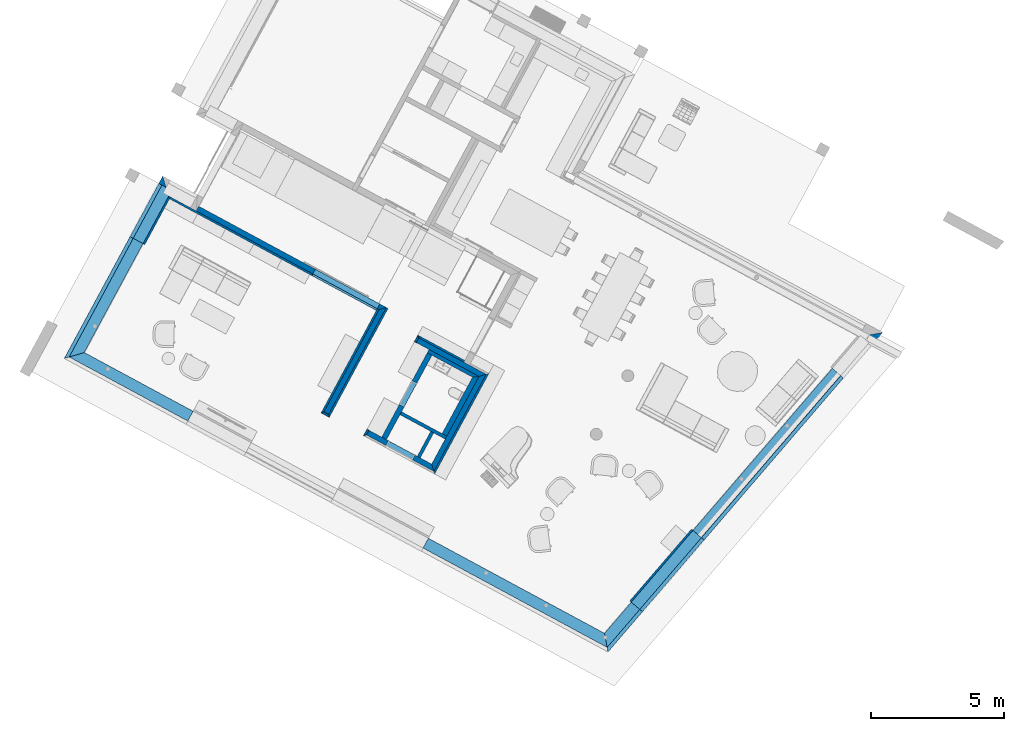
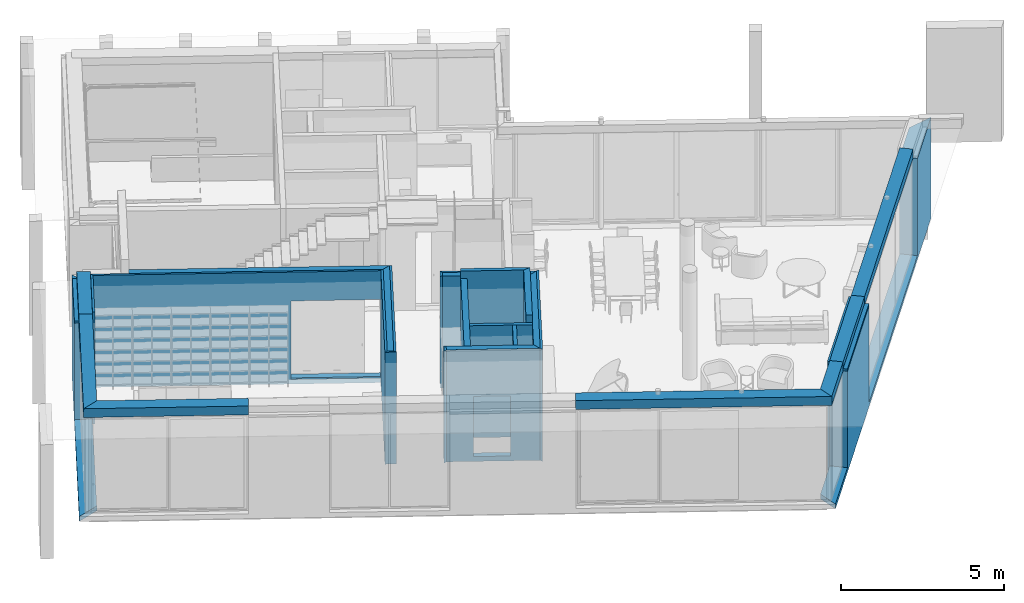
# One storey, part 2 of 36: 29 walls, 7 openings.
"""IFC2X3 building model written with IfcOpenShell, lengths in metres."""

from ifc_helpers import new_model, entity, si_unit, converted_unit, derived_unit, money_unit, direction, frame, origin_with_axes, origin_2d_with_axis, place, context, subcontext, project, spatial, polyline, rectangle, outline, composite_profile, extrude, faceted_brep, material, material_list, layer, layer_set, layer_usage, type_object, element, save


model = new_model("IFC2X3")

# Units and contexts
model_context = context("Model", 3, precision=1e-05, world=origin_with_axes(), true_north=direction((0.0, 1.0)))
body_context = subcontext(model_context, "Body", "Model", "MODEL_VIEW")
ifc_project = project(units=[si_unit("LENGTHUNIT", "METRE"), si_unit("AREAUNIT", "SQUARE_METRE"), si_unit("VOLUMEUNIT", "CUBIC_METRE"), converted_unit("PLANEANGLEUNIT", "DEGREE", entity("IfcPlaneAngleMeasure", 0.0174532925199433), si_unit("PLANEANGLEUNIT", "RADIAN"), dimensions=[0, 0, 0, 0, 0, 0, 0]), money_unit("EUR"), converted_unit("TIMEUNIT", "Year", entity("IfcTimeMeasure", 31556926.0), si_unit("TIMEUNIT", "SECOND"), dimensions=[0, 0, 1, 0, 0, 0, 0]), si_unit("MASSUNIT", "GRAM", prefix="KILO"), si_unit("THERMODYNAMICTEMPERATUREUNIT", "DEGREE_CELSIUS"), si_unit("LUMINOUSINTENSITYUNIT", "LUMEN"), si_unit("ENERGYUNIT", "JOULE", prefix="MEGA"), derived_unit("THERMALCONDUCTANCEUNIT", [(si_unit("POWERUNIT", "WATT"), 1), (si_unit("LENGTHUNIT", "METRE"), -1), (si_unit("THERMODYNAMICTEMPERATUREUNIT", "KELVIN"), -1)]), derived_unit("SPECIFICHEATCAPACITYUNIT", [(si_unit("ENERGYUNIT", "JOULE"), 1), (si_unit("MASSUNIT", "GRAM", prefix="KILO"), -1), (si_unit("THERMODYNAMICTEMPERATUREUNIT", "KELVIN"), -1)]), derived_unit("MASSDENSITYUNIT", [(si_unit("MASSUNIT", "GRAM", prefix="KILO"), 1), (si_unit("VOLUMEUNIT", "CUBIC_METRE"), -1)])], contexts=[model_context])

# Site, building, storey
site_placement = place(None, frame((-3.949935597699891, 1.740105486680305, 0.0), z_axis=(0.0, 0.0, 1.0), x_axis=(0.8799804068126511, -0.475009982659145, 0.0)))
site = spatial("IfcSite", under=ifc_project, at=site_placement, Name="Gelände", CompositionType="ELEMENT")
building_placement = place(site_placement, origin_with_axes())
building = spatial("IfcBuilding", under=site, at=building_placement, Name="Gebäude", CompositionType="ELEMENT")
storey_placement = place(building_placement, origin_with_axes())
storey = spatial("IfcBuildingStorey", under=building, at=storey_placement, Name="Erdgeschoss", CompositionType="ELEMENT", Elevation=0.0)

# Wall, opening
ifc_material_1 = material(Name="_SIWH - MW Vormauerziegel")
ifc_layer_1 = layer(ifc_material_1, 0.115, ventilated="UNKNOWN")
ifc_material_2 = material(Name="_SIWH - Luftschicht vertikal")
ifc_layer_2 = layer(ifc_material_2, 0.02, ventilated="UNKNOWN")
ifc_material_3 = material(Name="_SIWH - Dämmung, weich Mineralwolle")
ifc_layer_3 = layer(ifc_material_3, 0.18, ventilated="UNKNOWN")
ifc_material_4 = material(Name="_SIWH - Beton, Stahlbeton")
ifc_layer_4 = layer(ifc_material_4, 0.24, ventilated="UNKNOWN")
ifc_layer_set_1 = layer_set([ifc_layer_1, ifc_layer_2, ifc_layer_3, ifc_layer_4], Name="_SIWH - WA | Stb. 24+WD 18+LS 2+Verblender 11,5 | 55,5cm")
ifc_layer_usage_1 = layer_usage(ifc_layer_set_1, "AXIS2", "POSITIVE", -0.315)
wall_type_1 = type_object("IfcWallType", Name="_SIWH - WA | Stb. 24+WD 18+LS 2+Verblender 11,5 | 55,5cm 555", PredefinedType="NOTDEFINED")
wall_1_placement = place(storey_placement, frame((4.18253025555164, 7.393034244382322, -0.1800000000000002), z_axis=(0.0, 0.0, 1.0), x_axis=(-5.644435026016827e-07, -0.9999999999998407, 0.0)))
wall_1 = element("IfcWallStandardCase", 1, at=wall_1_placement, inside=storey, type_object=wall_type_1, material=ifc_layer_usage_1, Name="A-Wand026", ObjectType="NOTDEFINED", context=body_context, shape_type="SweptSolid", body=[
    extrude(outline(polyline([(-0.3149998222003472, -0.3149999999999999), (7.483037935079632, -0.3149999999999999), (6.928037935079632, 0.2400000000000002), (0.2399998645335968, 0.2400000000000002), (-0.3149998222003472, -0.3149999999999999)])), origin_with_axes(), (0.0, 0.0, 1.0), 3.799999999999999),
])
opening_1_placement = place(wall_1_placement, frame((4.623035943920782, 0.0, 0.1800000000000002), z_axis=(0.0, 0.0, 1.0), x_axis=(1.0, 0.0, 0.0)))
element("IfcOpeningElement", 2, at=opening_1_placement, cuts=wall_1, Name="Fenster-014", context=body_context, shape_type="Brep", body=[
    faceted_brep([(2.420001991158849, 0.1249999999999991, 3.619999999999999), (-2.350000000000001, 0.1249999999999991, 3.619999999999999), (-2.350000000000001, -0.3160040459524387, 3.619999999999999), (2.86, -0.31600404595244, 3.619999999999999), (2.86, -0.3149980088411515, 3.619999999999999), (2.30399794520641, 0.2410040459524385, 3.619999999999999), (-2.350000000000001, 0.2410040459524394, 3.619999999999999), (-2.350000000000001, 0.1249999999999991, 0.0), (-2.350000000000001, -0.3160040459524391, 0.0), (2.86, -0.31600404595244, 0.0), (2.86, -0.3149980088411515, 0.0), (2.420001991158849, 0.1249999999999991, 0.0), (2.30399794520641, 0.2410040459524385, 0.0), (-2.350000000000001, 0.2410040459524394, 0.0)], [[[0, 1, 2, 3, 4]], [[1, 0, 5, 6]], [[1, 7, 8, 2]], [[2, 8, 9, 3]], [[4, 3, 9, 10]], [[4, 10, 11, 12, 5, 0]], [[12, 13, 6, 5]], [[7, 1, 6, 13]], [[7, 11, 10, 9, 8]], [[11, 7, 13, 12]]]),
])

# Wall, openings
ifc_layer_usage_2 = layer_usage(ifc_layer_set_1, "AXIS2", "POSITIVE", -0.315)
wall_2_placement = place(storey_placement, frame((26.86187507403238, 0.224983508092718, -0.1800000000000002), z_axis=(0.0, 0.0, 1.0), x_axis=(0.213378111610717, 0.9769696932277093, 0.0)))
wall_2 = element("IfcWallStandardCase", 3, at=wall_2_placement, inside=storey, type_object=wall_type_1, material=ifc_layer_usage_2, Name="A-Wand028", ObjectType="NOTDEFINED", context=body_context, shape_type="SweptSolid", body=[
    extrude(outline(polyline([(-0.2536271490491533, -0.3150000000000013), (15.59953886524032, -0.3150000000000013), (14.91023923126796, 0.240000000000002), (0.1932397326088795, 0.240000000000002), (-0.2536271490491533, -0.3150000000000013)])), origin_with_axes(), (0.0, 0.0, 1.0), 3.799999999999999),
])
opening_2_placement = place(wall_2_placement, frame((0.9454091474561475, 0.0, 0.1800000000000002), z_axis=(0.0, 0.0, 1.0), x_axis=(1.0, 0.0, 0.0)))
element("IfcOpeningElement", 4, at=opening_2_placement, cuts=wall_2, Name="Fenster-003", context=body_context, shape_type="Brep", body=[
    faceted_brep([(0.7933643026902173, 0.125, 0.0), (0.7933643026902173, 0.125, 3.619999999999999), (0.7933643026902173, -3.486385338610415, 3.619999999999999), (0.7933643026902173, -3.486385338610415, 0.0), (0.7933643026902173, 2.159522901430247, 0.0), (0.7933643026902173, 2.159522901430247, 3.619999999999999), (-0.8447634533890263, 0.125, 3.619999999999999), (-1.19903662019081, -0.3150004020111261, 3.619999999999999), (-1.19903662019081, -3.486385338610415, 3.619999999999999), (-1.19903662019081, -3.486385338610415, 0.0), (-0.8447634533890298, 0.1249999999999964, 0.0), (-1.19903662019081, -0.3150004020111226, 0.0)], [[[0, 1, 2, 3]], [[1, 0, 4, 5]], [[1, 6, 7, 8, 2]], [[8, 9, 3, 2]], [[10, 0, 3, 9, 11]], [[0, 10, 4]], [[4, 10, 11, 7, 6, 5]], [[6, 1, 5]], [[11, 9, 8, 7]]]),
])
opening_3_placement = place(wall_2_placement, frame((9.321424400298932, 0.0, 0.15), z_axis=(0.0, 0.0, 1.0), x_axis=(1.0, 0.0, 0.0)))
element("IfcOpeningElement", 5, at=opening_3_placement, cuts=wall_2, Name="Fenster-003", context=body_context, shape_type="SweptSolid", body=[
    extrude(rectangle(XDim=8.041088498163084, YDim=3.649999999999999, at=origin_2d_with_axis()), frame((0.0, 0.1250000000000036, 1.825), z_axis=(0.0, -1.0, 0.0), x_axis=(-1.0, 0.0, 0.0)), (0.0, 0.0, 1.0), 0.9949999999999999),
    extrude(rectangle(XDim=8.041088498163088, YDim=3.649999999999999, at=origin_2d_with_axis()), frame((0.0, 0.1250000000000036, 1.825), z_axis=(0.0, 1.0, 0.0), x_axis=(-1.0, 0.0, 0.0)), (0.0, 0.0, 1.0), 0.6699999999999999),
])

# Walls
ifc_layer_5 = layer(ifc_material_3, 0.18, ventilated="UNKNOWN")
ifc_layer_6 = layer(ifc_material_4, 0.24, ventilated="UNKNOWN")
ifc_layer_set_2 = layer_set([ifc_layer_5, ifc_layer_6], Name="_SIWH - WA | Stb. 24+WD 18 | 42cm")
ifc_layer_usage_3 = layer_usage(ifc_layer_set_2, "AXIS2", "POSITIVE", -0.18)
wall_type_2 = type_object("IfcWallType", Name="_SIWH - WA | Stb. 24+WD 18 | 42cm 420", PredefinedType="NOTDEFINED")
wall_3_placement = place(storey_placement, frame((19.13486084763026, 0.2249891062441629, 3.619999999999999), z_axis=(0.0, 0.0, 1.0), x_axis=(0.9999999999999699, -2.452875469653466e-07, 0.0)))
element("IfcWallStandardCase", 6, at=wall_3_placement, inside=storey, type_object=wall_type_2, material=ifc_layer_usage_3, Name="A-Wand011", ObjectType="NOTDEFINED", context=body_context, shape_type="SweptSolid", body=[
    extrude(outline(polyline([(0.0, -0.18), (7.871944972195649, -0.18), (7.533775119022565, 0.2400000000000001), (0.0, 0.2400000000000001), (0.0, -0.18)])), origin_with_axes(), (0.0, 0.0, 1.0), 0.330000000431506),
])
ifc_layer_usage_4 = layer_usage(ifc_layer_set_2, "AXIS2", "POSITIVE", -0.18)
wall_4_placement = place(storey_placement, frame((4.182529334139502, 0.2249853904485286, 3.619999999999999), z_axis=(0.0, 0.0, 1.0), x_axis=(0.9999999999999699, -2.452875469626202e-07, 0.0)))
element("IfcWallStandardCase", 7, at=wall_4_placement, inside=storey, type_object=wall_type_2, material=ifc_layer_usage_4, Name="A-Wand007", ObjectType="NOTDEFINED", context=body_context, shape_type="SweptSolid", body=[
    extrude(outline(polyline([(-0.1799999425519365, -0.18), (4.89495199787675, -0.18), (4.89495199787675, 0.24), (0.2399999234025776, 0.24), (-0.1799999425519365, -0.18)])), origin_with_axes(), (0.0, 0.0, 1.0), 0.330000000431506),
])
ifc_layer_usage_5 = layer_usage(ifc_layer_set_2, "AXIS2", "POSITIVE", -0.18)
wall_5_placement = place(storey_placement, frame((27.99296098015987, 5.403786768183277, 3.619999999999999), z_axis=(0.0, 0.0, 1.0), x_axis=(0.2133789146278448, 0.9769695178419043, 0.0)))
element("IfcWallStandardCase", 8, at=wall_5_placement, inside=storey, type_object=wall_type_2, material=ifc_layer_usage_5, Name="A-Wand014", ObjectType="NOTDEFINED", context=body_context, shape_type="SweptSolid", body=[
    extrude(outline(polyline([(1.861902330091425e-07, -0.1800000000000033), (8.041085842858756, -0.1799999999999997), (8.04108584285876, 0.2399999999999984), (-2.482536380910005e-07, 0.2399999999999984), (1.861902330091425e-07, -0.1800000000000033)])), origin_with_axes(), (0.0, 0.0, 1.0), 0.330000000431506),
])
ifc_layer_usage_6 = layer_usage(ifc_layer_set_2, "AXIS2", "POSITIVE", -0.18)
wall_6_placement = place(storey_placement, frame((4.182528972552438, 5.120000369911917, 3.619999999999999), z_axis=(0.0, 0.0, 1.0), x_axis=(7.38684281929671e-08, -0.9999999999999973, 0.0)))
element("IfcWallStandardCase", 9, at=wall_6_placement, inside=storey, type_object=wall_type_2, material=ifc_layer_usage_6, Name="A-Wand015", ObjectType="NOTDEFINED", context=body_context, shape_type="SweptSolid", body=[
    extrude(outline(polyline([(-6.648158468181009e-09, -0.1800000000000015), (5.075014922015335, -0.1800000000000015), (4.655015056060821, 0.2399999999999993), (8.864212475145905e-09, 0.2399999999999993), (-6.648158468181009e-09, -0.1800000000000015)])), origin_with_axes(), (0.0, 0.0, 1.0), 0.330000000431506),
])
ifc_layer_usage_7 = layer_usage(ifc_layer_set_2, "AXIS2", "POSITIVE", -0.18)
wall_7_placement = place(storey_placement, frame((26.86187588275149, 0.224987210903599, 3.619999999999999), z_axis=(0.0, 0.0, 1.0), x_axis=(0.2133768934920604, 0.9769699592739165, 0.0)))
element("IfcWallStandardCase", 10, at=wall_7_placement, inside=storey, type_object=wall_type_2, material=ifc_layer_usage_7, Name="A-Wand012", ObjectType="NOTDEFINED", context=body_context, shape_type="SweptSolid", body=[
    extrude(outline(polyline([(-0.1449299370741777, -0.1800000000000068), (1.738769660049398, -0.1800000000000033), (1.738769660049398, 0.2399999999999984), (0.193239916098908, 0.2399999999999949), (-0.1449299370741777, -0.1800000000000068)])), origin_with_axes(), (0.0, 0.0, 1.0), 0.330000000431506),
])
ifc_material_5 = material(Name="_SIWH - Gipskarton")
ifc_layer_7 = layer(ifc_material_5, 0.0125, ventilated="UNKNOWN")
ifc_layer_8 = layer(ifc_material_5, 0.0125, ventilated="UNKNOWN")
ifc_material_6 = material(Name="_SIWH - Installationswand, raumhoch")
ifc_layer_9 = layer(ifc_material_6, 0.115, ventilated="UNKNOWN")
ifc_layer_set_3 = layer_set([ifc_layer_7, ifc_layer_8, ifc_layer_9], Name="_SIWH - WI | Vorsatz-GK 2-lagig | 14cm")
ifc_layer_usage_8 = layer_usage(ifc_layer_set_3, "AXIS2", "POSITIVE", 0.0)
wall_type_3 = type_object("IfcWallType", Name="_SIWH - WI | Vorsatz-GK 2-lagig | 14cm 140", PredefinedType="PLUMBINGWALL")
wall_8_placement = place(storey_placement, frame((15.78549142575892, 6.58787196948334, -0.3), z_axis=(0.0, 0.0, 1.0), x_axis=(0.9999999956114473, 9.368620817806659e-05, 0.0)))
element("IfcWallStandardCase", 11, at=wall_8_placement, inside=storey, type_object=wall_type_3, material=ifc_layer_usage_8, Name="L-Wand024", ObjectType="PLUMBINGWALL", context=body_context, shape_type="SweptSolid", body=[
    extrude(outline(polyline([(0.0, 0.0), (1.936009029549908, 0.0), (2.136022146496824, 0.1400000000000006), (0.0, 0.1399999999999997), (0.0, 0.0)])), origin_with_axes(), (0.0, 0.0, 1.0), 4.6),
])
ifc_layer_10 = layer(ifc_material_5, 0.0125, ventilated="UNKNOWN")
ifc_layer_11 = layer(ifc_material_5, 0.0125, ventilated="UNKNOWN")
ifc_layer_12 = layer(ifc_material_3, 0.075, ventilated="UNKNOWN")
ifc_layer_13 = layer(ifc_material_5, 0.0125, ventilated="UNKNOWN")
ifc_layer_14 = layer(ifc_material_5, 0.0125, ventilated="UNKNOWN")
ifc_layer_set_4 = layer_set([ifc_layer_10, ifc_layer_11, ifc_layer_12, ifc_layer_13, ifc_layer_14], Name="_SIWH - WI | GK 2-lagig | 12,5cm")
ifc_layer_usage_9 = layer_usage(ifc_layer_set_4, "AXIS2", "NEGATIVE", 0.0)
wall_type_4 = type_object("IfcWallType", Name="_SIWH - WI | GK 2-lagig | 12,5cm 125", PredefinedType="NOTDEFINED")
wall_9_placement = place(storey_placement, frame((17.92150044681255, 4.048753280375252, -0.18), z_axis=(0.0, 0.0, 1.0), x_axis=(-1.0, 0.0, 0.0)))
element("IfcWallStandardCase", 12, at=wall_9_placement, inside=storey, type_object=wall_type_4, material=ifc_layer_usage_9, Name="I-Wand037", ObjectType="NOTDEFINED", context=body_context, shape_type="SweptSolid", body=[
    extrude(outline(polyline([(0.0, -0.125), (1.936022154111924, -0.125), (1.936022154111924, 0.0), (0.0, 0.0), (0.0, -0.125)])), origin_with_axes(), (0.0, 0.0, 1.0), 4.200000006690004),
])
ifc_layer_usage_10 = layer_usage(ifc_layer_set_4, "AXIS2", "NEGATIVE", 0.0)
wall_10_placement = place(storey_placement, frame((17.43039245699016, 4.048753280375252, -0.18), z_axis=(0.0, 0.0, 1.0), x_axis=(0.0, -1.0, 0.0)))
element("IfcWallStandardCase", 13, at=wall_10_placement, inside=storey, type_object=wall_type_4, material=ifc_layer_usage_10, Name="I-Wand038", ObjectType="NOTDEFINED", context=body_context, shape_type="SweptSolid", body=[
    extrude(outline(polyline([(0.0, -0.125), (1.070270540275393, -0.125), (1.070270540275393, 0.0), (0.0, 0.0), (0.0, -0.125)])), origin_with_axes(), (0.0, 0.0, 1.0), 4.200000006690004),
])

# Wall, opening
ifc_layer_15 = layer(ifc_material_5, 0.0125, ventilated="UNKNOWN")
ifc_layer_16 = layer(ifc_material_5, 0.0125, ventilated="UNKNOWN")
ifc_layer_17 = layer(ifc_material_6, 0.05, ventilated="UNKNOWN")
ifc_layer_set_5 = layer_set([ifc_layer_15, ifc_layer_16, ifc_layer_17], Name="_SIWH - WI | Vorsatz-GK 2-lagig | 7,5cm")
ifc_layer_usage_11 = layer_usage(ifc_layer_set_5, "AXIS2", "NEGATIVE", 0.07500000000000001)
wall_type_5 = type_object("IfcWallType", Name="_SIWH - WI | Vorsatz-GK 2-lagig | 7,5cm  75", PredefinedType="PLUMBINGWALL")
wall_11_placement = place(storey_placement, frame((13.41918401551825, 7.153034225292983, -0.1800000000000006), z_axis=(0.0, 0.0, 1.0), x_axis=(-1.0, 0.0, 0.0)))
wall_11 = element("IfcWallStandardCase", 14, at=wall_11_placement, inside=storey, type_object=wall_type_5, material=ifc_layer_usage_11, Name="L-Wand002", ObjectType="PLUMBINGWALL", context=body_context, shape_type="SweptSolid", body=[
    extrude(outline(polyline([(0.0, 0.0), (8.9966550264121, 0.0), (8.921655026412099, 0.07500000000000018), (0.0, 0.07500000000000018), (0.0, 0.0)])), origin_with_axes(), (0.0, 0.0, 1.0), 4.200000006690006),
])
opening_4_placement = place(wall_11_placement, frame((1.455000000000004, 0.0, 0.1800000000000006), z_axis=(0.0, 0.0, 1.0), x_axis=(1.0, 0.0, 0.0)))
element("IfcOpeningElement", 15, at=opening_4_placement, cuts=wall_11, Name="Tür-026", context=body_context, shape_type="SweptSolid", body=[
    extrude(rectangle(XDim=2.760000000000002, YDim=2.94, at=origin_2d_with_axis()), frame((0.0, 0.04999999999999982, 1.47), z_axis=(0.0, -1.0, 0.0), x_axis=(1.0, 0.0, 0.0)), (0.0, 0.0, 1.0), 0.125),
    extrude(rectangle(XDim=2.760000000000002, YDim=2.94, at=origin_2d_with_axis()), frame((0.0, 0.04999999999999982, 1.47), z_axis=(0.0, 1.0, 0.0), x_axis=(1.0, 0.0, 0.0)), (0.0, 0.0, 1.0), 0.1),
])

# Walls
ifc_layer_usage_12 = layer_usage(ifc_layer_set_5, "AXIS2", "POSITIVE", 0.0)
wall_12_placement = place(storey_placement, frame((15.16082818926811, 2.978482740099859, -0.1800000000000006), z_axis=(0.0, 0.0, 1.0), x_axis=(0.0, -1.0, 0.0)))
element("IfcWallStandardCase", 16, at=wall_12_placement, inside=storey, type_object=wall_type_5, material=ifc_layer_usage_12, Name="L-Wand009", ObjectType="PLUMBINGWALL", context=body_context, shape_type="SweptSolid", body=[
    extrude(outline(polyline([(0.0, 0.0), (0.2749999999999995, 0.0), (0.1999999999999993, 0.07499999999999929), (0.0, 0.07499999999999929), (0.0, 0.0)])), origin_with_axes(), (0.0, 0.0, 1.0), 4.200000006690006),
])
ifc_layer_usage_13 = layer_usage(ifc_layer_set_5, "AXIS2", "NEGATIVE", 0.07500000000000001)
wall_13_placement = place(storey_placement, frame((26.99841634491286, 1.974923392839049, -0.1799999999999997), z_axis=(0.0, 0.0, 1.0), x_axis=(0.2133768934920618, 0.9769699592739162, 0.0)))
element("IfcWallStandardCase", 17, at=wall_13_placement, inside=storey, type_object=wall_type_5, material=ifc_layer_usage_13, Name="L-Wand015", ObjectType="PLUMBINGWALL", context=body_context, shape_type="SweptSolid", body=[
    extrude(outline(polyline([(0.0, 0.0), (3.562109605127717, 0.0), (3.562109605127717, 0.07499999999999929), (0.0, 0.07500000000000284), (0.0, 0.0)])), origin_with_axes(), (0.0, 0.0, 1.0), 4.080000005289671),
])
ifc_layer_usage_14 = layer_usage(ifc_layer_set_5, "AXIS2", "POSITIVE", 0.0)
wall_14_placement = place(storey_placement, frame((15.16082818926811, 7.003053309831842, -0.1800000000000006), z_axis=(0.0, 0.0, 1.0), x_axis=(0.0, -1.0, 0.0)))
element("IfcWallStandardCase", 18, at=wall_14_placement, inside=storey, type_object=wall_type_5, material=ifc_layer_usage_14, Name="L-Wand005", ObjectType="PLUMBINGWALL", context=body_context, shape_type="SweptSolid", body=[
    extrude(outline(polyline([(0.0, 0.0), (0.2750000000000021, 0.0), (0.2750000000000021, 0.07499999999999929), (0.07500000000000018, 0.07499999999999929), (0.0, 0.0)])), origin_with_axes(), (0.0, 0.0, 1.0), 4.200000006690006),
])
ifc_layer_usage_15 = layer_usage(ifc_layer_set_5, "AXIS2", "POSITIVE", 0.0)
wall_15_placement = place(storey_placement, frame((18.19650044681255, 2.703482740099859, -0.1800000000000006), z_axis=(0.0, 0.0, 1.0), x_axis=(0.0, 1.0, 0.0)))
element("IfcWallStandardCase", 19, at=wall_15_placement, inside=storey, type_object=wall_type_5, material=ifc_layer_usage_15, Name="L-Wand007", ObjectType="PLUMBINGWALL", context=body_context, shape_type="SweptSolid", body=[
    extrude(outline(polyline([(0.0, 0.0), (4.299570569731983, 0.0), (4.224570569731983, 0.07499999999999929), (0.07500000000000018, 0.07499999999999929), (0.0, 0.0)])), origin_with_axes(), (0.0, 0.0, 1.0), 4.200000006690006),
])
ifc_layer_usage_16 = layer_usage(ifc_layer_set_5, "AXIS2", "NEGATIVE", 0.07500000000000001)
wall_16_placement = place(storey_placement, frame((13.41918401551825, 2.703482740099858, -0.1800000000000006), z_axis=(0.0, 0.0, 1.0), x_axis=(0.0, 1.0, 0.0)))
element("IfcWallStandardCase", 20, at=wall_16_placement, inside=storey, type_object=wall_type_5, material=ifc_layer_usage_16, Name="L-Wand000", ObjectType="PLUMBINGWALL", context=body_context, shape_type="SweptSolid", body=[
    extrude(outline(polyline([(0.07500000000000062, 0.0), (4.44955998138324, 0.0), (4.449559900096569, 0.07499999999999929), (0.0, 0.07499999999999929), (0.07500000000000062, 0.0)])), origin_with_axes(), (0.0, 0.0, 1.0), 4.200000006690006),
])
ifc_layer_usage_17 = layer_usage(ifc_layer_set_5, "AXIS2", "NEGATIVE", 0.0)
wall_17_placement = place(storey_placement, frame((13.61918401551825, 2.703482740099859, -0.1800000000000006), z_axis=(0.0, 0.0, 1.0), x_axis=(-1.0, 0.0, 0.0)))
element("IfcWallStandardCase", 21, at=wall_17_placement, inside=storey, type_object=wall_type_5, material=ifc_layer_usage_17, Name="L-Wand020", ObjectType="PLUMBINGWALL", context=body_context, shape_type="SweptSolid", body=[
    extrude(outline(polyline([(0.0, -0.07500000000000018), (0.1999999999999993, -0.07500000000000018), (0.2749999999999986, 0.0), (-0.07499999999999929, 0.0), (0.0, -0.07500000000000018)])), origin_with_axes(), (0.0, 0.0, 1.0), 4.200000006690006),
])
ifc_layer_usage_18 = layer_usage(ifc_layer_set_5, "AXIS2", "POSITIVE", 0.0)
wall_18_placement = place(storey_placement, frame((17.16748824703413, 7.003053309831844, -0.1800000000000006), z_axis=(0.0, 0.0, 1.0), x_axis=(-1.0, 0.0, 0.0)))
element("IfcWallStandardCase", 22, at=wall_18_placement, inside=storey, type_object=wall_type_5, material=ifc_layer_usage_18, Name="L-Wand004", ObjectType="PLUMBINGWALL", context=body_context, shape_type="SweptSolid", body=[
    extrude(outline(polyline([(0.0, 0.0), (2.006660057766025, 0.0), (1.931660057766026, 0.07500000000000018), (0.0, 0.07500000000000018), (0.0, 0.0)])), origin_with_axes(), (0.0, 0.0, 1.0), 4.200000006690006),
])
ifc_layer_usage_19 = layer_usage(ifc_layer_set_5, "AXIS2", "NEGATIVE", 0.07500000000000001)
wall_19_placement = place(storey_placement, frame((4.422528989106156, 7.153034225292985, -0.1800000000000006), z_axis=(0.0, 0.0, 1.0), x_axis=(0.0, -1.0, 0.0)))
element("IfcWallStandardCase", 23, at=wall_19_placement, inside=storey, type_object=wall_type_5, material=ifc_layer_usage_19, Name="L-Wand003", ObjectType="PLUMBINGWALL", context=body_context, shape_type="SweptSolid", body=[
    extrude(outline(polyline([(0.0, 0.0), (2.033033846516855, 0.0), (2.033033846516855, 0.07500000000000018), (0.07500000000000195, 0.07500000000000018), (0.0, 0.0)])), origin_with_axes(), (0.0, 0.0, 1.0), 4.200000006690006),
])
ifc_layer_usage_20 = layer_usage(ifc_layer_set_5, "AXIS2", "POSITIVE", -0.07500000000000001)
wall_20_placement = place(storey_placement, frame((13.61918401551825, 2.703482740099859, -0.1800000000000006), z_axis=(0.0, 0.0, 1.0), x_axis=(0.0, 1.0, 0.0)))
element("IfcWallStandardCase", 24, at=wall_20_placement, inside=storey, type_object=wall_type_5, material=ifc_layer_usage_20, Name="L-Wand001", ObjectType="PLUMBINGWALL", context=body_context, shape_type="SweptSolid", body=[
    extrude(outline(polyline([(0.0, -0.07499999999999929), (4.64956019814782, -0.07499999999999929), (4.64956019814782, 0.0), (0.07499999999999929, 0.0), (0.0, -0.07499999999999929)])), origin_with_axes(), (0.0, 0.0, 1.0), 4.200000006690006),
])
ifc_material_list = material_list([ifc_material_3, ifc_material_4, ifc_material_1, ifc_material_2])
wall_type_6 = type_object("IfcWallType", Name="_SIWH - Sturz Außenwand EG 555 x 330", PredefinedType="NOTDEFINED")
wall_21_placement = place(storey_placement, frame((4.182528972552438, 7.393034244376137, 3.620000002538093), z_axis=(0.0, 0.0, 1.0), x_axis=(0.0, -1.0, 0.0)))
element("IfcWall", 25, at=wall_21_placement, inside=storey, type_object=wall_type_6, material=ifc_material_list, Name="A-Wand016", ObjectType="NOTDEFINED", context=body_context, shape_type="SweptSolid", body=[
    extrude(composite_profile([outline(polyline([(0.1799999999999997, 0.3300000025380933), (3.224471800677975e-10, 0.3300000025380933), (3.224471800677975e-10, 0.0), (0.1799999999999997, 0.0), (0.1800000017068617, 0.08000000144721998), (0.1799999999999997, 0.3300000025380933)])), outline(polyline([(-0.2400000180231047, 0.33), (-0.2400000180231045, 0.0), (0.0, 0.0), (0.0, 0.33), (-0.2400000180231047, 0.33)])), outline(polyline([(0.1999999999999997, 0.08000000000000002), (0.1999999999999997, 0.0), (0.3149999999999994, 0.0), (0.3149999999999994, 0.08000000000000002), (0.1999999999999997, 0.08000000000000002)])), outline(polyline([(0.1800000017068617, 0.0), (0.2000000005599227, 0.0), (0.2000000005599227, 0.07999999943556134), (0.1800000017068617, 0.08000000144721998), (0.1800000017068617, 0.0)]))]), frame((0.0, 0.0, 0.0), z_axis=(-1.0, 0.0, 0.0), x_axis=(0.0, -1.0, 0.0)), (0.0, 0.0, -1.0), 2.27303387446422),
])
wall_22_placement = place(storey_placement, frame((27.99296098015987, 5.403786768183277, 3.619999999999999), z_axis=(0.0, 0.0, 1.0), x_axis=(-0.2133768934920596, -0.9769699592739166, 0.0)))
element("IfcWall", 26, at=wall_22_placement, inside=storey, type_object=wall_type_6, material=ifc_material_list, Name="A-Wand013", ObjectType="NOTDEFINED", context=body_context, shape_type="SweptSolid", body=[
    extrude(composite_profile([outline(polyline([(0.1799999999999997, 0.3300000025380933), (3.224471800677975e-10, 0.3300000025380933), (3.224471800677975e-10, 0.0), (0.1799999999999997, 0.0), (0.1800000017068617, 0.08000000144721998), (0.1799999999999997, 0.3300000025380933)])), outline(polyline([(-0.2400000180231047, 0.33), (-0.2400000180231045, 0.0), (0.0, 0.0), (0.0, 0.33), (-0.2400000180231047, 0.33)])), outline(polyline([(0.1999999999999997, 0.08000000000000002), (0.1999999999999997, 0.0), (0.3149999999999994, 0.0), (0.3149999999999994, 0.08000000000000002), (0.1999999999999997, 0.08000000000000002)])), outline(polyline([(0.1800000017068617, 0.0), (0.2000000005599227, 0.0), (0.2000000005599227, 0.07999999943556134), (0.1800000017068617, 0.08000000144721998), (0.1800000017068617, 0.0)]))]), frame((0.0, 0.0, 0.0), z_axis=(1.0, 0.0, 0.0), x_axis=(0.0, 1.0, 0.0)), (0.0, 0.0, 1.0), 3.562109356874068),
])

# Wall, opening
ifc_layer_18 = layer(ifc_material_4, 0.2, ventilated="UNKNOWN")
ifc_layer_set_6 = layer_set([ifc_layer_18], Name="_SIWH - WI | Stb. 20 | 20cm")
ifc_layer_usage_21 = layer_usage(ifc_layer_set_6, "AXIS2", "POSITIVE", 0.0)
wall_type_7 = type_object("IfcWallType", Name="_SIWH - WI | Stb. 20 | 20cm 200", PredefinedType="NOTDEFINED")
wall_23_placement = place(storey_placement, frame((5.597481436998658, 7.153034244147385, -0.18), z_axis=(0.0, 0.0, 1.0), x_axis=(0.9999999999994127, 1.083822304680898e-06, 0.0)))
wall_23 = element("IfcWallStandardCase", 27, at=wall_23_placement, inside=storey, type_object=wall_type_7, material=ifc_layer_usage_21, Name="I-Wand007", ObjectType="NOTDEFINED", context=body_context, shape_type="SweptSolid", body=[
    extrude(outline(polyline([(0.0, 0.0), (7.82170257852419, 0.0), (8.02170279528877, 0.2000000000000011), (0.0, 0.2000000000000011), (0.0, 0.0)])), origin_with_axes(), (0.0, 0.0, 1.0), 4.200000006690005),
])
opening_5_placement = place(wall_23_placement, frame((6.366702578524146, 0.0, 0.18), z_axis=(0.0, 0.0, 1.0), x_axis=(1.0, 0.0, 0.0)))
element("IfcOpeningElement", 28, at=opening_5_placement, cuts=wall_23, Name="I-Wand059", context=body_context, shape_type="SweptSolid", body=[
    extrude(rectangle(XDim=2.759999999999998, YDim=2.94, at=origin_2d_with_axis()), frame((-2.167607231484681e-07, -0.1999999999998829, 1.47), z_axis=(1.083822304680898e-06, 0.9999999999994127, 0.0), x_axis=(0.9999999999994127, -1.083822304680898e-06, 0.0)), (0.0, 0.0, 1.0), 0.65),
])

# Wall
ifc_layer_usage_22 = layer_usage(ifc_layer_set_6, "AXIS2", "POSITIVE", 0.0)
wall_24_placement = place(storey_placement, frame((17.92150044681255, 6.72805330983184, -0.18), z_axis=(0.0, 0.0, 1.0), x_axis=(0.0, -1.0, 0.0)))
element("IfcWallStandardCase", 29, at=wall_24_placement, inside=storey, type_object=wall_type_7, material=ifc_layer_usage_22, Name="I-Wand010", ObjectType="NOTDEFINED", context=body_context, shape_type="SweptSolid", body=[
    extrude(outline(polyline([(0.0, 0.0), (3.749570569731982, 0.0), (3.949570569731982, 0.1999999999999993), (-0.2000000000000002, 0.1999999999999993), (0.0, 0.0)])), origin_with_axes(), (0.0, 0.0, 1.0), 4.200000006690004),
])

# Wall, opening
ifc_layer_usage_23 = layer_usage(ifc_layer_set_6, "AXIS2", "NEGATIVE", 0.0)
wall_25_placement = place(storey_placement, frame((15.2358281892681, 2.978482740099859, -0.18), z_axis=(0.0, 0.0, 1.0), x_axis=(1.0, 0.0, 0.0)))
wall_25 = element("IfcWallStandardCase", 30, at=wall_25_placement, inside=storey, type_object=wall_type_7, material=ifc_layer_usage_23, Name="I-Wand008", ObjectType="NOTDEFINED", context=body_context, shape_type="SweptSolid", body=[
    extrude(outline(polyline([(0.0, -0.2000000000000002), (2.885672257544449, -0.2000000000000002), (2.68567225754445, 0.0), (0.0, 0.0), (0.0, -0.2000000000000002)])), origin_with_axes(), (0.0, 0.0, 1.0), 4.200000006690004),
])
opening_6_placement = place(wall_25_placement, frame((1.404828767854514, 0.0, 0.18), z_axis=(0.0, 0.0, 1.0), x_axis=(1.0, 0.0, 0.0)))
element("IfcOpeningElement", 31, at=opening_6_placement, cuts=wall_25, Name="I-Wand051", context=body_context, shape_type="SweptSolid", body=[
    extrude(rectangle(XDim=1.134999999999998, YDim=2.26, at=origin_2d_with_axis()), frame((0.0, 0.2000000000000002, 1.13), z_axis=(0.0, -1.0, 0.0), x_axis=(-1.0, 0.0, 0.0)), (0.0, 0.0, 1.0), 0.6000000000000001),
])

# Walls
ifc_layer_usage_24 = layer_usage(ifc_layer_set_6, "AXIS2", "POSITIVE", 0.0)
wall_26_placement = place(storey_placement, frame((13.41918401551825, 7.1530427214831, -0.1800000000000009), z_axis=(0.0, 0.0, 1.0), x_axis=(0.0, -1.0, 0.0)))
element("IfcWallStandardCase", 32, at=wall_26_placement, inside=storey, type_object=wall_type_7, material=ifc_layer_usage_24, Name="I-Wand011", ObjectType="NOTDEFINED", context=body_context, shape_type="SweptSolid", body=[
    extrude(outline(polyline([(0.0, 0.0), (4.374559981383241, 0.0), (4.374559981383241, 0.1999999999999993), (-0.2000002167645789, 0.1999999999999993), (0.0, 0.0)])), origin_with_axes(), (0.0, 0.0, 1.0), 4.200000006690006),
])
ifc_layer_usage_25 = layer_usage(ifc_layer_set_6, "AXIS2", "POSITIVE", 0.0)
wall_27_placement = place(storey_placement, frame((15.2358281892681, 6.72805330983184, -0.18), z_axis=(0.0, 0.0, 1.0), x_axis=(1.0, 0.0, 0.0)))
element("IfcWallStandardCase", 33, at=wall_27_placement, inside=storey, type_object=wall_type_7, material=ifc_layer_usage_25, Name="I-Wand012", ObjectType="NOTDEFINED", context=body_context, shape_type="SweptSolid", body=[
    extrude(outline(polyline([(0.0, 0.0), (2.68567225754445, 0.0), (2.885672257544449, 0.2000000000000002), (0.0, 0.2000000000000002), (0.0, 0.0)])), origin_with_axes(), (0.0, 0.0, 1.0), 4.200000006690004),
])

# Wall, opening
ifc_material_7 = material(Name="_SIWH - MW Kalksandstein, nichttragend")
ifc_layer_19 = layer(ifc_material_7, 0.2, ventilated="UNKNOWN")
ifc_layer_set_7 = layer_set([ifc_layer_19], Name="_SIWH - WI | KS 20 nichttragend | 20cm")
ifc_layer_usage_26 = layer_usage(ifc_layer_set_7, "AXIS2", "NEGATIVE", 0.2)
wall_type_8 = type_object("IfcWallType", Name="_SIWH - WI | KS 20 nichttragend | 20cm 200", PredefinedType="NOTDEFINED")
wall_28_placement = place(storey_placement, frame((15.78547829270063, 6.72805330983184, -0.18), z_axis=(0.0, 0.0, 1.0), x_axis=(0.0, -1.0, 0.0)))
wall_28 = element("IfcWallStandardCase", 34, at=wall_28_placement, inside=storey, type_object=wall_type_8, material=ifc_layer_usage_26, Name="I-Wand039", ObjectType="NOTDEFINED", context=body_context, shape_type="SweptSolid", body=[
    extrude(outline(polyline([(0.0, 0.0), (3.749570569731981, 0.0), (3.749570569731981, 0.1999999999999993), (0.0, 0.1999999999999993), (0.0, 0.0)])), origin_with_axes(), (0.0, 0.0, 1.0), 4.200000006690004),
])
opening_7_placement = place(wall_28_placement, frame((1.842469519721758, 0.0, 0.18), z_axis=(0.0, 0.0, 1.0), x_axis=(1.0, 0.0, 0.0)))
element("IfcOpeningElement", 35, at=opening_7_placement, cuts=wall_28, Name="I-Wand050", context=body_context, shape_type="SweptSolid", body=[
    extrude(rectangle(XDim=1.01, YDim=2.26, at=origin_2d_with_axis()), frame((0.0, 0.1999999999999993, 1.13), z_axis=(0.0, 1.0, 0.0), x_axis=(1.0, 0.0, 0.0)), (0.0, 0.0, -1.0), 0.6000000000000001),
])

# Wall
ifc_layer_20 = layer(ifc_material_5, 0.0125, ventilated="UNKNOWN")
ifc_layer_21 = layer(ifc_material_5, 0.0125, ventilated="UNKNOWN")
ifc_layer_22 = layer(ifc_material_6, 0.175, ventilated="UNKNOWN")
ifc_layer_set_8 = layer_set([ifc_layer_20, ifc_layer_21, ifc_layer_22], Name="_SIWH - WI | Vorsatz-GK 2-lagig | 20cm")
ifc_layer_usage_27 = layer_usage(ifc_layer_set_8, "AXIS2", "POSITIVE", 0.0)
wall_type_9 = type_object("IfcWallType", Name="_SIWH - WI | Vorsatz-GK 2-lagig | 20cm 200", PredefinedType="PLUMBINGWALL")
wall_29_placement = place(storey_placement, frame((17.72150044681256, 6.588053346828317, -0.3), z_axis=(0.0, 0.0, 1.0), x_axis=(0.0, -1.0, 0.0)))
element("IfcWallStandardCase", 36, at=wall_29_placement, inside=storey, type_object=wall_type_9, material=ifc_layer_usage_27, Name="L-Wand028", ObjectType="PLUMBINGWALL", context=body_context, shape_type="SweptSolid", body=[
    extrude(outline(polyline([(0.0, 0.0), (2.414300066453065, 0.0), (2.414300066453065, 0.1999999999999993), (-0.1400187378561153, 0.1999999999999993), (0.0, 0.0)])), origin_with_axes(), (0.0, 0.0, 1.0), 4.6),
])

save(model, "model.ifc")
